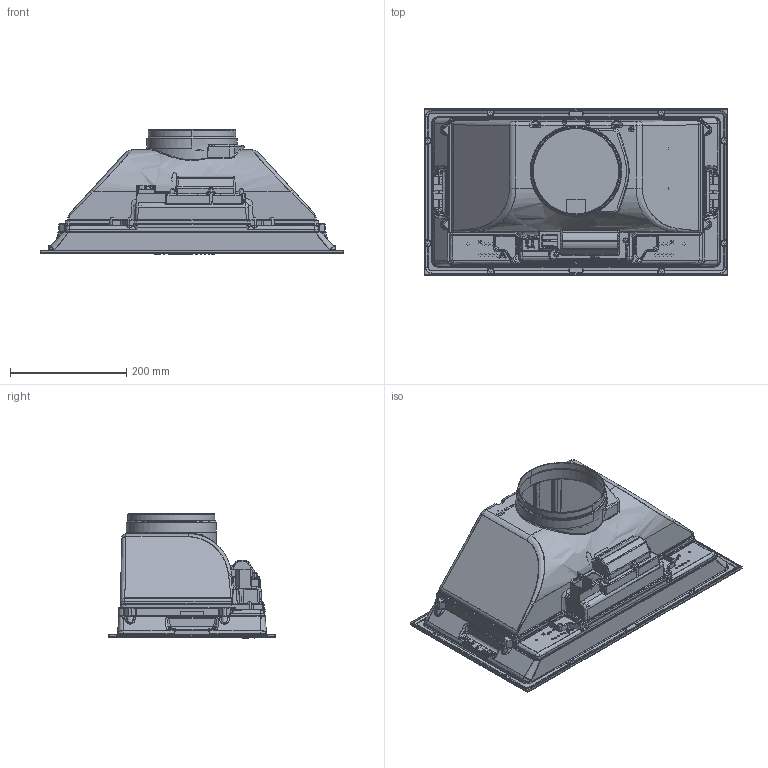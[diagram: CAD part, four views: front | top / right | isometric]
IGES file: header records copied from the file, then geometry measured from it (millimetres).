
Global section: file name: F:\_CONVERSIONE_CAD_2024_2025\03_3D kits new\07_Hoods\Solo Logo Piatto o 3D\3D001_Hoods_Buit-In_FBI-525\3D001_Hoods_Buit-In_FBI-525.igs; native system: Rhinoceros ( Jan  9 2024 ); preprocessor: Trout Lake IGES 012 Jan  9 2024; date: 240212.090808; units: millimetre
Bounding box: 522 x 286 x 214 mm (x, y, z)
Surface area: 1184322 mm2 (no closed solid volume)
Topology: 0 solids, 0 shells, 8746 faces, 57263 edges, 57142 vertices
Faces by surface type: bspline 8746
